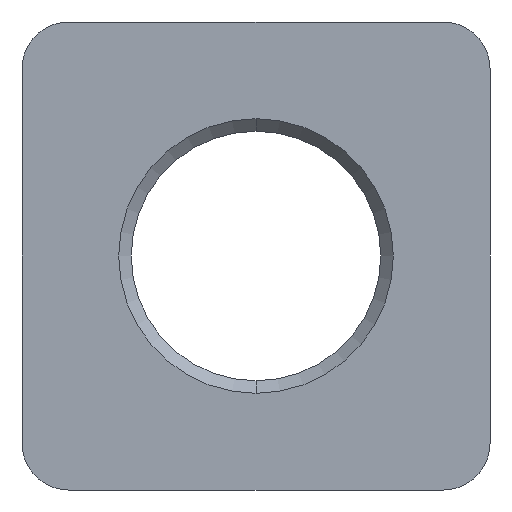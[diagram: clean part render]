
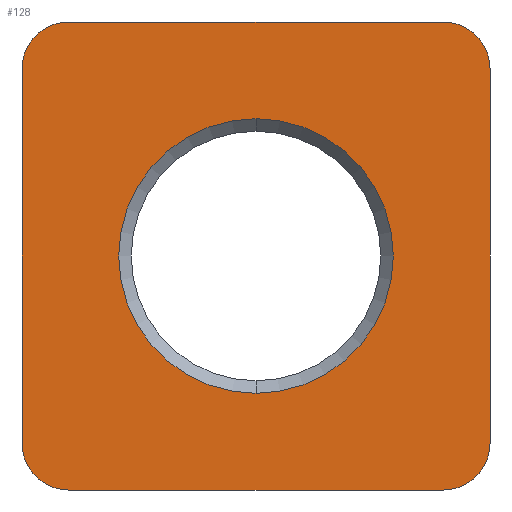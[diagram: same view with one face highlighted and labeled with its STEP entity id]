
A CAD part, front view. The second image highlights one B-rep face of the part: STEP entity #128.
In plain terms, the highlighted planar face has unit normal (0, -1, 0).
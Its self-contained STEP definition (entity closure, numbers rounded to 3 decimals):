
#44 = VERTEX_POINT ( 'NONE', #277 ) ;
#81 = EDGE_CURVE ( 'NONE', #92, #156, #332, .T. ) ;
#86 = EDGE_CURVE ( 'NONE', #98, #109, #385, .T. ) ;
#92 = VERTEX_POINT ( 'NONE', #370 ) ;
#98 = VERTEX_POINT ( 'NONE', #423 ) ;
#103 = EDGE_CURVE ( 'NONE', #116, #98, #417, .T. ) ;
#109 = VERTEX_POINT ( 'NONE', #401 ) ;
#110 = EDGE_CURVE ( 'NONE', #1063, #44, #400, .T. ) ;
#116 = VERTEX_POINT ( 'NONE', #449 ) ;
#121 = EDGE_CURVE ( 'NONE', #44, #116, #444, .T. ) ;
#127 = EDGE_CURVE ( 'NONE', #139, #1063, #436, .T. ) ;
#128 = ADVANCED_FACE ( 'NONE', ( #432, #431 ), #426, .F. ) ;
#129 = EDGE_LOOP ( 'NONE', ( #130, #131 ) ) ;
#130 = ORIENTED_EDGE ( 'NONE', *, *, #225, .T. ) ;
#131 = ORIENTED_EDGE ( 'NONE', *, *, #132, .T. ) ;
#132 = EDGE_CURVE ( 'NONE', #230, #223, #488, .T. ) ;
#133 = EDGE_LOOP ( 'NONE', ( #191, #192, #193, #194, #195, #196, #197, #198 ) ) ;
#139 = VERTEX_POINT ( 'NONE', #472 ) ;
#144 = EDGE_CURVE ( 'NONE', #156, #139, #466, .T. ) ;
#150 = EDGE_CURVE ( 'NONE', #109, #92, #515, .T. ) ;
#156 = VERTEX_POINT ( 'NONE', #499 ) ;
#191 = ORIENTED_EDGE ( 'NONE', *, *, #110, .F. ) ;
#192 = ORIENTED_EDGE ( 'NONE', *, *, #127, .F. ) ;
#193 = ORIENTED_EDGE ( 'NONE', *, *, #144, .F. ) ;
#194 = ORIENTED_EDGE ( 'NONE', *, *, #81, .F. ) ;
#195 = ORIENTED_EDGE ( 'NONE', *, *, #150, .F. ) ;
#196 = ORIENTED_EDGE ( 'NONE', *, *, #86, .F. ) ;
#197 = ORIENTED_EDGE ( 'NONE', *, *, #103, .F. ) ;
#198 = ORIENTED_EDGE ( 'NONE', *, *, #121, .F. ) ;
#223 = VERTEX_POINT ( 'NONE', #557 ) ;
#225 = EDGE_CURVE ( 'NONE', #223, #230, #556, .T. ) ;
#230 = VERTEX_POINT ( 'NONE', #608 ) ;
#277 = CARTESIAN_POINT ( 'NONE',  ( -15., 0., -12. ) ) ;
#332 = LINE ( 'NONE', #392, #391 ) ;
#370 = CARTESIAN_POINT ( 'NONE',  ( 15., 0., 12. ) ) ;
#382 = DIRECTION ( 'NONE',  ( 1., 0., 0. ) ) ;
#383 = VECTOR ( 'NONE', #382, 1000. ) ;
#384 = CARTESIAN_POINT ( 'NONE',  ( -12., 0., 15. ) ) ;
#385 = LINE ( 'NONE', #384, #383 ) ;
#390 = DIRECTION ( 'NONE',  ( 0., 0., -1. ) ) ;
#391 = VECTOR ( 'NONE', #390, 1000. ) ;
#392 = CARTESIAN_POINT ( 'NONE',  ( 15., 0., 12. ) ) ;
#396 = DIRECTION ( 'NONE',  ( 0., 0., 1. ) ) ;
#397 = DIRECTION ( 'NONE',  ( 0., 1., 0. ) ) ;
#398 = CARTESIAN_POINT ( 'NONE',  ( -12., 0., -12. ) ) ;
#399 = AXIS2_PLACEMENT_3D ( 'NONE', #398, #397, #396 ) ;
#400 = CIRCLE ( 'NONE', #399, 3. ) ;
#401 = CARTESIAN_POINT ( 'NONE',  ( 12., 0., 15. ) ) ;
#413 = DIRECTION ( 'NONE',  ( 0., 0., -1. ) ) ;
#414 = DIRECTION ( 'NONE',  ( 0., 1., 0. ) ) ;
#415 = CARTESIAN_POINT ( 'NONE',  ( -12., 0., 12. ) ) ;
#416 = AXIS2_PLACEMENT_3D ( 'NONE', #415, #414, #413 ) ;
#417 = CIRCLE ( 'NONE', #416, 3. ) ;
#423 = CARTESIAN_POINT ( 'NONE',  ( -12., 0., 15. ) ) ;
#425 = CARTESIAN_POINT ( 'NONE',  ( -12., 0., -12. ) ) ;
#426 = PLANE ( 'NONE',  #430 ) ;
#429 = DIRECTION ( 'NONE',  ( 0., 1., 0. ) ) ;
#430 = AXIS2_PLACEMENT_3D ( 'NONE', #425, #429, #1064 ) ;
#431 = FACE_OUTER_BOUND ( 'NONE', #133, .T. ) ;
#432 = FACE_BOUND ( 'NONE', #129, .T. ) ;
#433 = DIRECTION ( 'NONE',  ( -1., 0., 0. ) ) ;
#434 = VECTOR ( 'NONE', #433, 1000. ) ;
#435 = CARTESIAN_POINT ( 'NONE',  ( -12., 0., -15. ) ) ;
#436 = LINE ( 'NONE', #435, #434 ) ;
#441 = DIRECTION ( 'NONE',  ( 0., 0., 1. ) ) ;
#442 = VECTOR ( 'NONE', #441, 1000. ) ;
#443 = CARTESIAN_POINT ( 'NONE',  ( -15., 0., 12. ) ) ;
#444 = LINE ( 'NONE', #443, #442 ) ;
#449 = CARTESIAN_POINT ( 'NONE',  ( -15., 0., 12. ) ) ;
#462 = DIRECTION ( 'NONE',  ( 0., 0., -1. ) ) ;
#463 = DIRECTION ( 'NONE',  ( 0., 1., 0. ) ) ;
#464 = CARTESIAN_POINT ( 'NONE',  ( 12., 0., -12. ) ) ;
#465 = AXIS2_PLACEMENT_3D ( 'NONE', #464, #463, #462 ) ;
#466 = CIRCLE ( 'NONE', #465, 3. ) ;
#472 = CARTESIAN_POINT ( 'NONE',  ( 12., 0., -15. ) ) ;
#484 = DIRECTION ( 'NONE',  ( 0., 0., 1. ) ) ;
#485 = DIRECTION ( 'NONE',  ( 0., 1., 0. ) ) ;
#486 = CARTESIAN_POINT ( 'NONE',  ( 0., 0., 0. ) ) ;
#487 = AXIS2_PLACEMENT_3D ( 'NONE', #486, #485, #484 ) ;
#488 = CIRCLE ( 'NONE', #487, 8.8 ) ;
#499 = CARTESIAN_POINT ( 'NONE',  ( 15., 0., -12. ) ) ;
#511 = DIRECTION ( 'NONE',  ( 0., 0., 1. ) ) ;
#512 = DIRECTION ( 'NONE',  ( 0., 1., 0. ) ) ;
#513 = CARTESIAN_POINT ( 'NONE',  ( 12., 0., 12. ) ) ;
#514 = AXIS2_PLACEMENT_3D ( 'NONE', #513, #512, #511 ) ;
#515 = CIRCLE ( 'NONE', #514, 3. ) ;
#552 = DIRECTION ( 'NONE',  ( 0., 0., 1. ) ) ;
#553 = DIRECTION ( 'NONE',  ( 0., 1., 0. ) ) ;
#554 = CARTESIAN_POINT ( 'NONE',  ( 0., 0., 0. ) ) ;
#555 = AXIS2_PLACEMENT_3D ( 'NONE', #554, #553, #552 ) ;
#556 = CIRCLE ( 'NONE', #555, 8.8 ) ;
#557 = CARTESIAN_POINT ( 'NONE',  ( 0., 0., -8.8 ) ) ;
#608 = CARTESIAN_POINT ( 'NONE',  ( 0., 0., 8.8 ) ) ;
#734 = CARTESIAN_POINT ( 'NONE',  ( -12., 0., -15. ) ) ;
#1063 = VERTEX_POINT ( 'NONE', #734 ) ;
#1064 = DIRECTION ( 'NONE',  ( 0., 0., 1. ) ) ;
